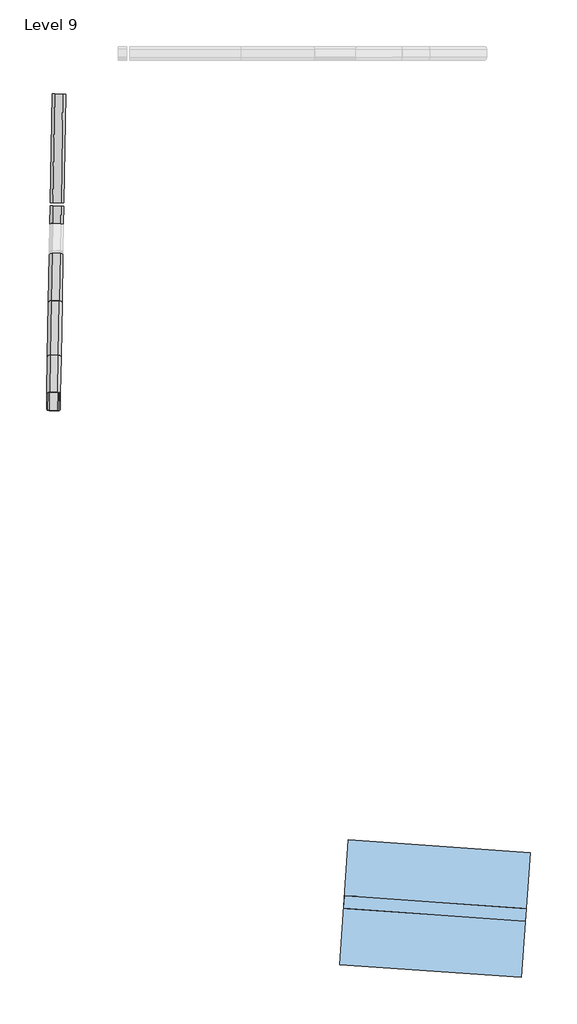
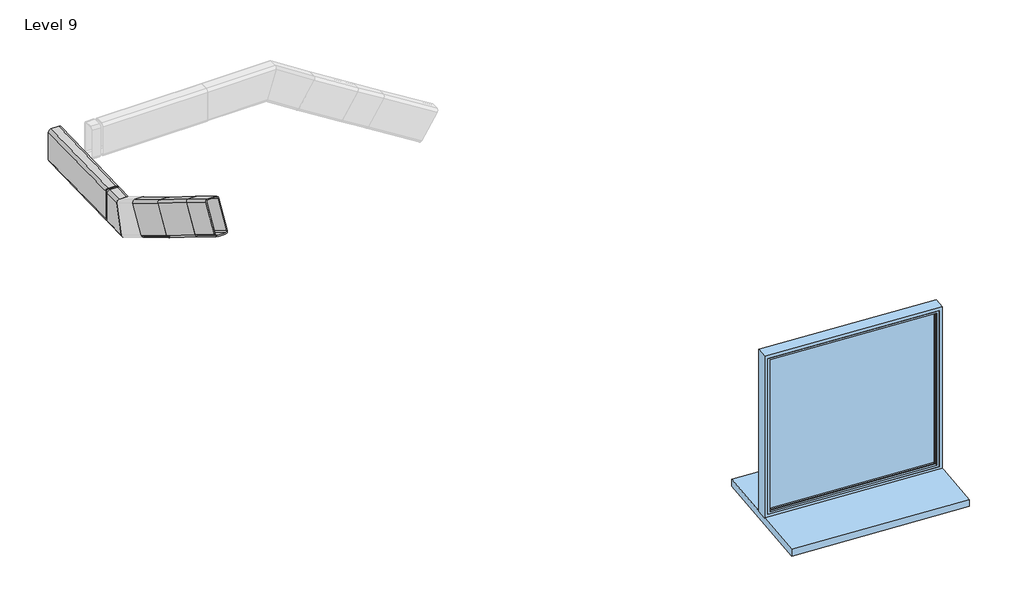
# One storey, part 1 of 2: 5 beams, 1 window.
"""IFC4 building model written with IfcOpenShell, lengths in millimetres."""

from ifc_helpers import new_model, si_unit, frame, origin, place, context, project, spatial, polyline, circle_curve, ellipse_curve, transform, mapped, element, save
from ifc_brep_helpers import plane_surface, cylinder_surface, revolved_surface, advanced_brep
from components import rectangular_and_square_hollow_sections_9ac2fbd2, finestra_semplice_80_x_80_cm_494b2022

model = new_model("IFC4")

# Units and contexts
model_context = context("Model", 3, world=origin())
ifc_project = project(units=[si_unit("LENGTHUNIT", "METRE", prefix="MILLI")], contexts=[model_context])

# Site, building, storey
site = spatial("IfcSite", under=ifc_project)
building = spatial("IfcBuilding", under=site)
storey = spatial("IfcBuildingStorey", under=building, Name="Level 9", Elevation=-895.9880884)

# Beams
placement = place(None, origin())
element("IfcBeam", 1, ObjectType="Rectangular and Square Hollow Sections : TREC160x60x6", at=placement, inside=storey, context=model_context, shape_type="AdvancedBrep", body=[
    advanced_brep(
    [(-786.6676706, 1507.5414416, -638.857877), (-774.6694983, 1507.3320127, -626.857877), (-738.6749813, 1506.7037259, -626.857877), (-726.6768089, 1506.494297, -638.857877), (-726.6768089, 1506.494297, -774.857877), (-738.6749813, 1506.7037259, -786.857877), (-774.6694983, 1507.3320127, -786.857877), (-786.6676706, 1507.5414416, -774.857877), (-738.6749813, 1506.7037259, -632.857877), (-774.6694983, 1507.3320127, -632.857877), (-780.6685845, 1507.4367271, -638.857877), (-780.6685845, 1507.4367271, -774.857877), (-774.6694983, 1507.3320127, -780.857877), (-738.6749813, 1506.7037259, -780.857877), (-732.6758951, 1506.5990114, -774.857877), (-732.6758951, 1506.5990114, -638.857877), (-788.071649, 1427.1075937, -638.857877), (-776.0147937, 1430.2601056, -626.857877), (-740.0202767, 1429.631819, -626.857877), (-728.0807873, 1426.0604493, -638.857877), (-728.7458602, 1387.958454, -774.857877), (-740.8027155, 1384.8059421, -786.857877), (-776.7972325, 1385.4342288, -786.857877), (-788.7367219, 1389.0055984, -774.857877), (-740.0496182, 1427.9508486, -632.857877), (-776.0441352, 1428.5791352, -632.857877), (-782.0725628, 1427.0028793, -638.857877), (-782.7376357, 1388.900884, -774.857877), (-776.767891, 1387.1151992, -780.857877), (-740.773374, 1386.4869125, -780.857877), (-734.7449464, 1388.0631685, -774.857877), (-734.0798734, 1426.1651638, -638.857877)],
    [
        (0, 1, circle_curve(frame((-774.6694983, 1507.3320127, -638.857877), z_axis=(0.01745241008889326, 0.9998476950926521, 0.0), x_axis=(0.9998476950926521, -0.01745241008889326, 0.0)), 12.0)),
        (1, 2),
        (2, 3, circle_curve(frame((-738.6749813, 1506.7037259, -638.857877), z_axis=(0.01745241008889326, 0.9998476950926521, 0.0), x_axis=(0.9998476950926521, -0.01745241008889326, 0.0)), 12.0)),
        (3, 4),
        (4, 5, circle_curve(frame((-738.6749813, 1506.7037259, -774.857877), z_axis=(0.01745241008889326, 0.9998476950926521, 0.0), x_axis=(0.9998476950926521, -0.01745241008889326, 0.0)), 12.0)),
        (5, 6),
        (6, 7, circle_curve(frame((-774.6694983, 1507.3320127, -774.857877), z_axis=(0.01745241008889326, 0.9998476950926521, 0.0), x_axis=(0.9998476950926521, -0.01745241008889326, 0.0)), 12.0)),
        (7, 0),
        (8, 9),
        (9, 10, circle_curve(frame((-774.6694983, 1507.3320127, -638.857877), z_axis=(-0.01745241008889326, -0.9998476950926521, 0.0), x_axis=(0.9998476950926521, -0.01745241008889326, 0.0)), 6.0)),
        (10, 11),
        (11, 12, circle_curve(frame((-774.6694983, 1507.3320127, -774.857877), z_axis=(-0.01745241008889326, -0.9998476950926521, 0.0), x_axis=(0.9998476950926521, -0.01745241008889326, 0.0)), 6.0)),
        (12, 13),
        (13, 14, circle_curve(frame((-738.6749813, 1506.7037259, -774.857877), z_axis=(-0.01745241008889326, -0.9998476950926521, 0.0), x_axis=(0.9998476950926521, -0.01745241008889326, 0.0)), 6.0)),
        (14, 15),
        (15, 8, circle_curve(frame((-738.6749813, 1506.7037259, -638.857877), z_axis=(-0.01745241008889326, -0.9998476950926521, 0.0), x_axis=(0.9998476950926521, -0.01745241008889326, 0.0)), 6.0)),
        (0, 16),
        (16, 17, ellipse_curve(frame((-776.0734766, 1426.8981649, -638.857877), z_axis=(0.016805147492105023, 0.9627662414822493, -0.26981243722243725), x_axis=(0.004708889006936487, 0.2697713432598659, 0.962912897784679)), 12.4621864, 12.0)),
        (17, 1),
        (17, 18),
        (18, 2),
        (18, 19, ellipse_curve(frame((-740.0789596, 1426.2698782, -638.857877), z_axis=(0.016805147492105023, 0.9627662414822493, -0.26981243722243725), x_axis=(0.004708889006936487, 0.2697713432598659, 0.962912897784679)), 12.4621864, 12.0)),
        (19, 3),
        (19, 20),
        (20, 4),
        (20, 21, ellipse_curve(frame((-740.7440325, 1388.1678829, -774.857877), z_axis=(0.016805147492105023, 0.9627662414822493, -0.26981243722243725), x_axis=(0.004708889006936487, 0.2697713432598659, 0.962912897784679)), 12.4621864, 12.0)),
        (21, 5),
        (21, 22),
        (22, 6),
        (22, 23, ellipse_curve(frame((-776.7385496, 1388.7961695, -774.857877), z_axis=(0.016805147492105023, 0.9627662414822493, -0.26981243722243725), x_axis=(0.004708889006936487, 0.2697713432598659, 0.962912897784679)), 12.4621864, 12.0)),
        (23, 7),
        (23, 16),
        (8, 24),
        (24, 25),
        (25, 9),
        (25, 26, ellipse_curve(frame((-776.0734766, 1426.8981649, -638.857877), z_axis=(-0.016805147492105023, -0.9627662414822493, 0.26981243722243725), x_axis=(-0.004708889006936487, -0.2697713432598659, -0.962912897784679)), 6.2310932, 6.0)),
        (26, 10),
        (26, 27),
        (27, 11),
        (27, 28, ellipse_curve(frame((-776.7385496, 1388.7961695, -774.857877), z_axis=(-0.016805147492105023, -0.9627662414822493, 0.26981243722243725), x_axis=(-0.004708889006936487, -0.2697713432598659, -0.962912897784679)), 6.2310932, 6.0)),
        (28, 12),
        (28, 29),
        (29, 13),
        (29, 30, ellipse_curve(frame((-740.7440325, 1388.1678829, -774.857877), z_axis=(-0.016805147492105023, -0.9627662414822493, 0.26981243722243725), x_axis=(-0.004708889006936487, -0.2697713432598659, -0.962912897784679)), 6.2310932, 6.0)),
        (30, 14),
        (30, 31),
        (31, 15),
        (31, 24, ellipse_curve(frame((-740.0789596, 1426.2698782, -638.857877), z_axis=(-0.016805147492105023, -0.9627662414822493, 0.26981243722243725), x_axis=(-0.004708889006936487, -0.2697713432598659, -0.962912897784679)), 6.2310932, 6.0)),
    ],
    [
        plane_surface(frame((-756.6722398, 1507.0178693, -706.857877), z_axis=(0.01745241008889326, 0.9998476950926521, 0.0), x_axis=(0.0, 0.0, 1.0))),
        cylinder_surface(frame((-774.6694983, 1507.3320127, -638.857877), z_axis=(0.01745241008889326, 0.9998476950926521, 0.0), x_axis=(0.9998476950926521, -0.01745241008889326, 0.0)), 12.0),
        plane_surface(frame((-774.6694983, 1507.3320127, -626.857877), z_axis=(0.0, 0.0, 1.0), x_axis=(-0.01745241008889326, -0.9998476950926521, 0.0))),
        cylinder_surface(frame((-738.6749813, 1506.7037259, -638.857877), z_axis=(0.01745241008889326, 0.9998476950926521, 0.0), x_axis=(0.9998476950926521, -0.01745241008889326, 0.0)), 12.0),
        plane_surface(frame((-726.6768089, 1506.494297, -638.857877), z_axis=(0.9998476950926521, -0.01745241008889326, 0.0), x_axis=(-0.01745241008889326, -0.9998476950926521, 0.0))),
        cylinder_surface(frame((-738.6749813, 1506.7037259, -774.857877), z_axis=(0.01745241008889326, 0.9998476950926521, 0.0), x_axis=(0.9998476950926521, -0.01745241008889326, 0.0)), 12.0),
        plane_surface(frame((-738.6749813, 1506.7037259, -786.857877), z_axis=(0.0, 0.0, -1.0), x_axis=(-0.01745241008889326, -0.9998476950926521, 0.0))),
        cylinder_surface(frame((-774.6694983, 1507.3320127, -774.857877), z_axis=(0.01745241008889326, 0.9998476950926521, 0.0), x_axis=(0.9998476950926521, -0.01745241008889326, 0.0)), 12.0),
        plane_surface(frame((-786.6676706, 1507.5414416, -774.857877), z_axis=(-0.9998476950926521, 0.01745241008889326, 0.0), x_axis=(-0.01745241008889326, -0.9998476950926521, 0.0))),
        plane_surface(frame((-738.6749813, 1506.7037259, -632.857877), z_axis=(0.0, 0.0, -1.0), x_axis=(-0.01745241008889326, -0.9998476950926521, 0.0))),
        revolved_surface(polyline([(-770.1037319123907, 1425.112480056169, -638.857877), (-768.6704121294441, 1507.2272982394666, -638.857877)]), (-774.6694983, 1507.3320127, -638.857877), (-0.01745241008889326, -0.9998476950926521, 0.0)),
        plane_surface(frame((-780.6685845, 1507.4367271, -638.857877), z_axis=(0.9998476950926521, -0.01745241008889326, 0.0), x_axis=(-0.01745241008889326, -0.9998476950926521, 0.0))),
        revolved_surface(polyline([(-770.768804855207, 1387.0104846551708, -774.857877), (-768.6704121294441, 1507.2272982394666, -774.857877)]), (-774.6694983, 1507.3320127, -774.857877), (-0.01745241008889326, -0.9998476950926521, 0.0)),
        plane_surface(frame((-774.6694983, 1507.3320127, -780.857877), z_axis=(0.0, 0.0, 1.0), x_axis=(-0.01745241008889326, -0.9998476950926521, 0.0))),
        revolved_surface(polyline([(-734.7742878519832, 1386.38219803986, -774.857877), (-732.6758951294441, 1506.5990114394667, -774.857877)]), (-738.6749813, 1506.7037259, -774.857877), (-0.01745241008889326, -0.9998476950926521, 0.0)),
        plane_surface(frame((-732.6758951, 1506.5990114, -774.857877), z_axis=(-0.9998476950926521, 0.01745241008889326, 0.0), x_axis=(-0.01745241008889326, -0.9998476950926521, 0.0))),
        revolved_surface(polyline([(-734.1092149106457, 1424.4841933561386, -638.857877), (-732.6758951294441, 1506.5990114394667, -638.857877)]), (-738.6749813, 1506.7037259, -638.857877), (-0.01745241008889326, -0.9998476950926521, 0.0)),
        plane_surface(frame((-758.7999749, 1385.1200854, -786.8578774), z_axis=(-0.016805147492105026, -0.9627662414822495, 0.2698124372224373), x_axis=(0.9998587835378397, -0.016181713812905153, 0.004534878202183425))),
    ],
    [
        (0, [[1, 2, 3, 4, 5, 6, 7, 8], [9, 10, 11, 12, 13, 14, 15, 16]]),
        (1, [[-1, 17, 18, 19]]),
        (2, [[-2, -19, 20, 21]]),
        (3, [[-3, -21, 22, 23]]),
        (4, [[-4, -23, 24, 25]]),
        (5, [[-5, -25, 26, 27]]),
        (6, [[-6, -27, 28, 29]]),
        (7, [[-7, -29, 30, 31]]),
        (8, [[-8, -31, 32, -17]]),
        (9, [[-9, 33, 34, 35]]),
        (10, [[-10, -35, 36, 37]]),
        (11, [[-11, -37, 38, 39]]),
        (12, [[-12, -39, 40, 41]]),
        (13, [[-13, -41, 42, 43]]),
        (14, [[-14, -43, 44, 45]]),
        (15, [[-15, -45, 46, 47]]),
        (16, [[-16, -47, 48, -33]]),
        (17, [[-32, -30, -28, -26, -24, -22, -20, -18], [-48, -46, -44, -42, -40, -38, -36, -34]]),
    ],
),
])
element("IfcBeam", 2, ObjectType="Rectangular and Square Hollow Sections : TREC160x60x6", at=placement, inside=storey, context=model_context, shape_type="AdvancedBrep", body=[
    advanced_brep(
    [(-786.1135043, 851.705311, -268.614134), (-798.2224054, 845.5710937, -278.8000931), (-801.0410842, 684.0891106, -179.850867), (-788.9348089, 690.0728935, -169.5727281), (-750.1189873, 851.0770243, -268.614134), (-752.9402919, 689.4446068, -169.5727281), (-738.2315437, 844.5239492, -278.8000931), (-741.0502225, 683.0419662, -179.850867), (-739.4864698, 772.6292921, -394.2409629), (-742.275389, 612.8522331, -296.336441), (-751.5953709, 766.4950748, -404.426922), (-754.3816642, 606.8684503, -306.6145799), (-787.5898879, 767.1233614, -404.426922), (-790.3761813, 607.496737, -306.6145799), (-799.4773315, 773.6764366, -394.2409629), (-802.2662507, 613.8993776, -296.336441), (-786.1688687, 848.5334879, -273.7071136), (-750.1743517, 847.9052012, -273.7071136), (-752.9943434, 686.3480009, -174.7117975), (-788.9888604, 686.9762876, -174.7117975), (-792.2233193, 845.4663792, -278.8000931), (-795.041998, 683.9843962, -179.850867), (-793.4782453, 773.5717221, -394.2409629), (-796.2671645, 613.7946631, -296.336441), (-787.5345235, 770.2951846, -399.3339424), (-790.3221298, 610.5933428, -301.4755105), (-751.5400065, 769.6668979, -399.3339424), (-754.3276128, 609.9650561, -301.4755105), (-745.4855559, 772.7340065, -394.2409629), (-748.2744751, 612.9569476, -296.336441), (-744.2306299, 844.6286637, -278.8000931), (-747.0493087, 683.1466806, -179.850867)],
    [
        (0, 1, ellipse_curve(frame((-786.2242331, 845.3616648, -278.8000931), z_axis=(-0.014813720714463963, -0.8486774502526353, 0.5287032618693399), x_axis=(0.009227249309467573, 0.5286227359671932, 0.8488067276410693)), 12.0003279, 12.0)),
        (1, 2),
        (2, 3, ellipse_curve(frame((-789.0429119, 683.8796817, -179.850867), z_axis=(0.014947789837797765, 0.856358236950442, -0.5161658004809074), x_axis=(-0.009008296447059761, -0.5160871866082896, -0.856488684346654)), 12.0003207, 12.0)),
        (3, 0),
        (4, 0),
        (3, 5),
        (5, 4),
        (6, 4, ellipse_curve(frame((-750.2297161, 844.7333781, -278.8000931), z_axis=(-0.014813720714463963, -0.8486774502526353, 0.5287032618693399), x_axis=(0.009227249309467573, 0.5286227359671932, 0.8488067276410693)), 12.0003279, 12.0)),
        (5, 7, ellipse_curve(frame((-753.0483948, 683.2513951, -179.850867), z_axis=(0.014947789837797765, 0.856358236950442, -0.5161658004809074), x_axis=(-0.009008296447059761, -0.5160871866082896, -0.856488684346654)), 12.0003207, 12.0)),
        (7, 6),
        (8, 6),
        (7, 9),
        (9, 8),
        (10, 8, ellipse_curve(frame((-751.4846421, 772.838721, -394.2409629), z_axis=(-0.014813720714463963, -0.8486774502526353, 0.5287032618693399), x_axis=(0.009227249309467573, 0.5286227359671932, 0.8488067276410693)), 12.0003279, 12.0)),
        (9, 11, ellipse_curve(frame((-754.2735613, 613.061662, -296.336441), z_axis=(0.014947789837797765, 0.856358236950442, -0.5161658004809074), x_axis=(-0.009008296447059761, -0.5160871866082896, -0.856488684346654)), 12.0003207, 12.0)),
        (11, 10),
        (12, 10),
        (11, 13),
        (13, 12),
        (14, 12, ellipse_curve(frame((-787.4791591, 773.4670077, -394.2409629), z_axis=(-0.014813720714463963, -0.8486774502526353, 0.5287032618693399), x_axis=(0.009227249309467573, 0.5286227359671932, 0.8488067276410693)), 12.0003279, 12.0)),
        (13, 15, ellipse_curve(frame((-790.2680783, 613.6899487, -296.336441), z_axis=(0.014947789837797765, 0.856358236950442, -0.5161658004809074), x_axis=(-0.009008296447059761, -0.5160871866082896, -0.856488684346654)), 12.0003207, 12.0)),
        (15, 14),
        (1, 14),
        (15, 2),
        (16, 17),
        (17, 18),
        (18, 19),
        (19, 16),
        (20, 16, ellipse_curve(frame((-786.2242331, 845.3616648, -278.8000931), z_axis=(0.014813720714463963, 0.8486774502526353, -0.5287032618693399), x_axis=(-0.009227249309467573, -0.5286227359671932, -0.8488067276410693)), 6.000164, 6.0)),
        (19, 21, ellipse_curve(frame((-789.0429119, 683.8796817, -179.850867), z_axis=(-0.014947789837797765, -0.856358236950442, 0.5161658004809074), x_axis=(0.009008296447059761, 0.5160871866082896, 0.856488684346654)), 6.0001603, 6.0)),
        (21, 20),
        (22, 20),
        (21, 23),
        (23, 22),
        (24, 22, ellipse_curve(frame((-787.4791591, 773.4670077, -394.2409629), z_axis=(0.014813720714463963, 0.8486774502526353, -0.5287032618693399), x_axis=(-0.009227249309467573, -0.5286227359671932, -0.8488067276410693)), 6.000164, 6.0)),
        (23, 25, ellipse_curve(frame((-790.2680783, 613.6899487, -296.336441), z_axis=(-0.014947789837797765, -0.856358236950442, 0.5161658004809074), x_axis=(0.009008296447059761, 0.5160871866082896, 0.856488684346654)), 6.0001603, 6.0)),
        (25, 24),
        (26, 24),
        (25, 27),
        (27, 26),
        (28, 26, ellipse_curve(frame((-751.4846421, 772.838721, -394.2409629), z_axis=(0.014813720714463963, 0.8486774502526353, -0.5287032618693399), x_axis=(-0.009227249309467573, -0.5286227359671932, -0.8488067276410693)), 6.000164, 6.0)),
        (27, 29, ellipse_curve(frame((-754.2735613, 613.061662, -296.336441), z_axis=(-0.014947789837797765, -0.856358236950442, 0.5161658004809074), x_axis=(0.009008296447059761, 0.5160871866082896, 0.856488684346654)), 6.0001603, 6.0)),
        (29, 28),
        (30, 28),
        (29, 31),
        (31, 30),
        (17, 30, ellipse_curve(frame((-750.2297161, 844.7333781, -278.8000931), z_axis=(0.014813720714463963, 0.8486774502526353, -0.5287032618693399), x_axis=(-0.009227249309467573, -0.5286227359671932, -0.8488067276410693)), 6.000164, 6.0)),
        (31, 18, ellipse_curve(frame((-753.0483948, 683.2513951, -179.850867), z_axis=(-0.014947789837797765, -0.856358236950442, 0.5161658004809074), x_axis=(0.009008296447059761, 0.5160871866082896, 0.856488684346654)), 6.0001603, 6.0)),
    ],
    [
        cylinder_surface(frame((-786.23475, 844.7591515, -278.4308989), z_axis=(0.014881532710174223, 0.8525623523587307, -0.5224136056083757), x_axis=(0.9998476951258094, -0.017452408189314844, 0.0)), 12.0),
        plane_surface(frame((-786.1253415, 851.02716, -268.1985922), z_axis=(0.009117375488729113, 0.5223340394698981, 0.8526922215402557), x_axis=(-0.014881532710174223, -0.8525623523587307, 0.5224136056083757))),
        cylinder_surface(frame((-750.240233, 844.1308648, -278.4308989), z_axis=(0.014881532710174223, 0.8525623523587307, -0.5224136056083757), x_axis=(0.9998476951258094, -0.017452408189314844, 0.0)), 12.0),
        plane_surface(frame((-738.2420606, 843.9214359, -278.4308989), z_axis=(0.9998476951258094, -0.017452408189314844, 0.0), x_axis=(-0.014881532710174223, -0.8525623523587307, 0.5224136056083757))),
        cylinder_surface(frame((-751.480196, 773.0934355, -394.397041), z_axis=(0.014881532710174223, 0.8525623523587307, -0.5224136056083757), x_axis=(0.9998476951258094, -0.017452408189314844, 0.0)), 12.0),
        plane_surface(frame((-751.5896045, 766.825427, -404.6293477), z_axis=(-0.009117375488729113, -0.5223340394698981, -0.8526922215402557), x_axis=(-0.014881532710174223, -0.8525623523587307, 0.5224136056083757))),
        cylinder_surface(frame((-787.4747131, 773.7217222, -394.397041), z_axis=(0.014881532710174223, 0.8525623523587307, -0.5224136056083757), x_axis=(0.9998476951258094, -0.017452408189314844, 0.0)), 12.0),
        plane_surface(frame((-799.4728854, 773.9311511, -394.397041), z_axis=(-0.9998476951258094, 0.017452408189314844, 0.0), x_axis=(-0.014881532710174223, -0.8525623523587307, 0.5224136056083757))),
        plane_surface(frame((-750.1855287, 847.2648691, -273.3147455), z_axis=(-0.009117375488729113, -0.5223340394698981, -0.8526922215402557), x_axis=(-0.014881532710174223, -0.8525623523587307, 0.5224136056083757))),
        revolved_surface(polyline([(-783.0444784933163, 683.7375688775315, -179.82795088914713), (-780.2244867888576, 845.2947692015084, -278.8232669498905)]), (-786.23475, 844.7591515, -278.4308989), (-0.014881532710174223, -0.8525623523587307, 0.5224136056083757)),
        plane_surface(frame((-792.2338362, 844.863866, -278.4308989), z_axis=(0.9998476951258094, -0.017452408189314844, 0.0), x_axis=(-0.014881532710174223, -0.8525623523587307, 0.5224136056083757))),
        revolved_surface(polyline([(-784.2696449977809, 613.5478358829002, -296.3135248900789), (-781.4794128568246, 773.4001121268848, -394.2641366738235)]), (-787.4747131, 773.7217222, -394.397041), (-0.014881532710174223, -0.8525623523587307, 0.5224136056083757)),
        plane_surface(frame((-787.5294173, 770.5877179, -399.5131943), z_axis=(0.009117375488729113, 0.5223340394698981, 0.8526922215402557), x_axis=(-0.014881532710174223, -0.8525623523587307, 0.5224136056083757))),
        revolved_surface(polyline([(-748.275127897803, 612.9195491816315, -296.31352488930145), (-745.4848957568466, 772.771825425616, -394.26413667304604)]), (-751.480196, 773.0934355, -394.397041), (-0.014881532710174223, -0.8525623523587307, 0.5224136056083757)),
        plane_surface(frame((-745.4811099, 772.988721, -394.397041), z_axis=(-0.9998476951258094, 0.017452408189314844, 0.0), x_axis=(-0.014881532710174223, -0.8525623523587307, 0.5224136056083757))),
        revolved_surface(polyline([(-747.0499614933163, 683.1092821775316, -179.82795088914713), (-744.2299697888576, 844.6664825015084, -278.8232669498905)]), (-750.240233, 844.1308648, -278.4308989), (-0.014881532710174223, -0.8525623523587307, 0.5224136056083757)),
        plane_surface(frame((-772.3789196, 607.1825929, -306.6145809), z_axis=(-0.014947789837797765, -0.856358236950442, 0.5161658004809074), x_axis=(0.999888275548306, -0.012802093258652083, 0.007716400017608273))),
        plane_surface(frame((-769.5926377, 766.8092166, -404.4269246), z_axis=(0.014813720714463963, 0.8486774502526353, -0.5287032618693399), x_axis=(0.9998902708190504, -0.012573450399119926, 0.007832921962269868))),
    ],
    [
        (0, [[1, 2, 3, 4]]),
        (1, [[5, -4, 6, 7]]),
        (2, [[8, -7, 9, 10]]),
        (3, [[11, -10, 12, 13]]),
        (4, [[14, -13, 15, 16]]),
        (5, [[17, -16, 18, 19]]),
        (6, [[20, -19, 21, 22]]),
        (7, [[23, -22, 24, -2]]),
        (8, [[25, 26, 27, 28]]),
        (9, [[29, -28, 30, 31]]),
        (10, [[32, -31, 33, 34]]),
        (11, [[35, -34, 36, 37]]),
        (12, [[38, -37, 39, 40]]),
        (13, [[41, -40, 42, 43]]),
        (14, [[44, -43, 45, 46]]),
        (15, [[47, -46, 48, -26]]),
        (16, [[-24, -21, -18, -15, -12, -9, -6, -3], [-48, -45, -42, -39, -36, -33, -30, -27]]),
        (17, [[-1, -5, -8, -11, -14, -17, -20, -23], [-25, -29, -32, -35, -38, -41, -44, -47]]),
    ],
),
])
element("IfcBeam", 3, ObjectType="Rectangular and Square Hollow Sections : TREC160x60x6", at=placement, inside=storey, context=model_context, shape_type="AdvancedBrep", body=[
    advanced_brep(
    [(-781.949362, 1090.2688692, -419.6925435), (-794.0580797, 1084.1451584, -429.8851562), (-798.2224055, 845.5710936, -278.8000931), (-786.1135044, 851.705311, -268.614134), (-745.954845, 1089.6405826, -419.6925435), (-750.1189874, 851.0770243, -268.614134), (-734.067218, 1083.0980141, -429.8851562), (-738.2315438, 844.5239492, -278.8000931), (-735.3200655, 1011.3224313, -545.4014338), (-739.4864697, 772.6292921, -394.2409629), (-747.4287832, 1005.1987205, -555.5940465), (-751.5953708, 766.4950748, -404.426922), (-783.4233002, 1005.8270071, -555.5940465), (-787.5898878, 767.1233615, -404.426922), (-795.3109272, 1012.3695757, -545.4014338), (-799.4773314, 773.6764365, -394.2409629), (-782.0046347, 1087.1022994, -424.7888499), (-746.0101177, 1086.4740128, -424.7888499), (-750.1743517, 847.9052012, -273.7071136), (-786.1688688, 848.5334879, -273.7071136), (-788.0589935, 1084.040444, -429.8851562), (-792.2233193, 845.4663792, -278.8000931), (-789.311841, 1012.2648612, -545.4014338), (-793.4782452, 773.5717221, -394.2409629), (-783.3680275, 1008.993577, -550.4977401), (-787.5345234, 770.2951846, -399.3339424), (-747.3735105, 1008.3652904, -550.4977401), (-751.5400064, 769.6668979, -399.3339424), (-741.3191516, 1011.4271458, -545.4014338), (-745.4855559, 772.7340066, -394.2409629), (-740.0663042, 1083.2027285, -429.8851562), (-744.23063, 844.6286637, -278.8000931)],
    [
        (0, 1, ellipse_curve(frame((-782.0599074, 1083.9357296, -429.8851562), z_axis=(-0.014823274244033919, -0.8492248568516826, 0.527823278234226), x_axis=(-0.009211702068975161, -0.5277428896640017, -0.8493542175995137)), 12.0004263, 12.0)),
        (1, 2),
        (2, 3, ellipse_curve(frame((-786.2242332, 845.3616647, -278.8000931), z_axis=(0.014813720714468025, 0.8486774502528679, -0.5287032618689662), x_axis=(-0.00922724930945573, -0.5286227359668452, -0.8488067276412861)), 12.0003279, 12.0)),
        (3, 0),
        (4, 0),
        (3, 5),
        (5, 4),
        (6, 4, ellipse_curve(frame((-746.0653904, 1083.307443, -429.8851562), z_axis=(-0.014823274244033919, -0.8492248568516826, 0.527823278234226), x_axis=(-0.009211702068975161, -0.5277428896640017, -0.8493542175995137)), 12.0004263, 12.0)),
        (5, 7, ellipse_curve(frame((-750.2297161, 844.7333781, -278.8000931), z_axis=(0.014813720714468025, 0.8486774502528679, -0.5287032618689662), x_axis=(-0.00922724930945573, -0.5286227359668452, -0.8488067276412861)), 12.0003279, 12.0)),
        (7, 6),
        (8, 6),
        (7, 9),
        (9, 8),
        (10, 8, ellipse_curve(frame((-747.3182378, 1011.5318602, -545.4014338), z_axis=(-0.014823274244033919, -0.8492248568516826, 0.527823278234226), x_axis=(-0.009211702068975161, -0.5277428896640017, -0.8493542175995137)), 12.0004263, 12.0)),
        (9, 11, ellipse_curve(frame((-751.484642, 772.838721, -394.2409629), z_axis=(0.014813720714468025, 0.8486774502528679, -0.5287032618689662), x_axis=(-0.00922724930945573, -0.5286227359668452, -0.8488067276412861)), 12.0003279, 12.0)),
        (11, 10),
        (12, 10),
        (11, 13),
        (13, 12),
        (14, 12, ellipse_curve(frame((-783.3127548, 1012.1601468, -545.4014338), z_axis=(-0.014823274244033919, -0.8492248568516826, 0.527823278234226), x_axis=(-0.009211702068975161, -0.5277428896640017, -0.8493542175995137)), 12.0004263, 12.0)),
        (13, 15, ellipse_curve(frame((-787.4791591, 773.4670077, -394.2409629), z_axis=(0.014813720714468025, 0.8486774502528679, -0.5287032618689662), x_axis=(-0.00922724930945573, -0.5286227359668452, -0.8488067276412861)), 12.0003279, 12.0)),
        (15, 14),
        (1, 14),
        (15, 2),
        (16, 17),
        (17, 18),
        (18, 19),
        (19, 16),
        (20, 16, ellipse_curve(frame((-782.0599074, 1083.9357296, -429.8851562), z_axis=(0.014823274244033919, 0.8492248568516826, -0.527823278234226), x_axis=(0.009211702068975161, 0.5277428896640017, 0.8493542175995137)), 6.0002132, 6.0)),
        (19, 21, ellipse_curve(frame((-786.2242332, 845.3616647, -278.8000931), z_axis=(-0.014813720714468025, -0.8486774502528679, 0.5287032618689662), x_axis=(0.00922724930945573, 0.5286227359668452, 0.8488067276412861)), 6.000164, 6.0)),
        (21, 20),
        (22, 20),
        (21, 23),
        (23, 22),
        (24, 22, ellipse_curve(frame((-783.3127548, 1012.1601468, -545.4014338), z_axis=(0.014823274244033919, 0.8492248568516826, -0.527823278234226), x_axis=(0.009211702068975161, 0.5277428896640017, 0.8493542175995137)), 6.0002132, 6.0)),
        (23, 25, ellipse_curve(frame((-787.4791591, 773.4670077, -394.2409629), z_axis=(-0.014813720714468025, -0.8486774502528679, 0.5287032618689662), x_axis=(0.00922724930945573, 0.5286227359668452, 0.8488067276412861)), 6.000164, 6.0)),
        (25, 24),
        (26, 24),
        (25, 27),
        (27, 26),
        (28, 26, ellipse_curve(frame((-747.3182378, 1011.5318602, -545.4014338), z_axis=(0.014823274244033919, 0.8492248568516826, -0.527823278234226), x_axis=(0.009211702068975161, 0.5277428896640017, 0.8493542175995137)), 6.0002132, 6.0)),
        (27, 29, ellipse_curve(frame((-751.484642, 772.838721, -394.2409629), z_axis=(-0.014813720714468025, -0.8486774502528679, 0.5287032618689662), x_axis=(0.00922724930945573, 0.5286227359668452, 0.8488067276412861)), 6.000164, 6.0)),
        (29, 28),
        (30, 28),
        (29, 31),
        (31, 30),
        (17, 30, ellipse_curve(frame((-746.0653904, 1083.307443, -429.8851562), z_axis=(0.014823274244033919, 0.8492248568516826, -0.527823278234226), x_axis=(0.009211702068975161, 0.5277428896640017, 0.8493542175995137)), 6.0002132, 6.0)),
        (31, 18, ellipse_curve(frame((-750.2297161, 844.7333781, -278.8000931), z_axis=(-0.014813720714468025, -0.8486774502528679, 0.5287032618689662), x_axis=(0.00922724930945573, 0.5286227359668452, 0.8488067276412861)), 6.000164, 6.0)),
    ],
    [
        cylinder_surface(frame((-782.0550788, 1084.2123599, -430.0603417), z_axis=(0.014745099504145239, 0.8447461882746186, -0.5349639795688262), x_axis=(0.9998476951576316, -0.017452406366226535, 0.0)), 12.0),
        plane_surface(frame((-781.9430419, 1090.6309499, -419.9218433), z_axis=(0.009336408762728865, 0.5348825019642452, 0.8448748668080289), x_axis=(-0.014745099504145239, -0.8447461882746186, 0.5349639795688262))),
        cylinder_surface(frame((-746.0605618, 1083.5840732, -430.0603417), z_axis=(0.014745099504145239, 0.8447461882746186, -0.5349639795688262), x_axis=(0.9998476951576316, -0.017452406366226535, 0.0)), 12.0),
        plane_surface(frame((-734.0623894, 1083.3746444, -430.0603417), z_axis=(0.9998476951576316, -0.017452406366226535, 0.0), x_axis=(-0.014745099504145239, -0.8447461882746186, 0.5349639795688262))),
        cylinder_surface(frame((-747.3303133, 1010.840053, -544.9633236), z_axis=(0.014745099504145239, 0.8447461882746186, -0.5349639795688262), x_axis=(0.9998476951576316, -0.017452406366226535, 0.0)), 12.0),
        plane_surface(frame((-747.4423502, 1004.421463, -555.101822), z_axis=(-0.009336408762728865, -0.5348825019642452, -0.8448748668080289), x_axis=(-0.014745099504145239, -0.8447461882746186, 0.5349639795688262))),
        cylinder_surface(frame((-783.3248304, 1011.4683396, -544.9633236), z_axis=(0.014745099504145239, 0.8447461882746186, -0.5349639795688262), x_axis=(0.9998476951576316, -0.017452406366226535, 0.0)), 12.0),
        plane_surface(frame((-795.3230027, 1011.6777685, -544.9633236), z_axis=(-0.9998476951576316, 0.017452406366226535, 0.0), x_axis=(-0.014745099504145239, -0.8447461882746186, 0.5349639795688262))),
        plane_surface(frame((-746.0045433, 1086.7933683, -424.9910925), z_axis=(-0.009336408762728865, -0.5348825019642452, -0.8448748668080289), x_axis=(-0.014745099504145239, -0.8447461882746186, 0.5349639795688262))),
        revolved_surface(polyline([(-780.2258010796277, 845.2194783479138, -278.7763627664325), (-776.0600754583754, 1083.8737403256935, -429.91221339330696)]), (-782.0550788, 1084.2123599, -430.0603417), (-0.014745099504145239, -0.8447461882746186, 0.5349639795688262)),
        plane_surface(frame((-788.0541649, 1084.3170743, -430.0603417), z_axis=(0.9998476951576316, -0.017452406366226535, 0.0), x_axis=(-0.014745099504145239, -0.8447461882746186, 0.5349639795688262))),
        revolved_surface(polyline([(-781.4807269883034, 773.3248213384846, -394.21723258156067), (-777.3129229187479, 1012.0981575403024, -545.4284909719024)]), (-783.3248304, 1011.4683396, -544.9633236), (-0.014745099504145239, -0.8447461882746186, 0.5349639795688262)),
        plane_surface(frame((-783.3808488, 1008.2590446, -550.0325728), z_axis=(0.009336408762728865, 0.5348825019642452, 0.8448748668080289), x_axis=(-0.014745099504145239, -0.8447461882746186, 0.5349639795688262))),
        revolved_surface(polyline([(-745.486209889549, 772.6965346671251, -394.21723253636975), (-741.3184058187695, 1011.4698709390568, -545.4284909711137)]), (-747.3303133, 1010.840053, -544.9633236), (-0.014745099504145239, -0.8447461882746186, 0.5349639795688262)),
        plane_surface(frame((-741.3312272, 1010.7353385, -544.9633236), z_axis=(-0.9998476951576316, 0.017452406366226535, 0.0), x_axis=(-0.014745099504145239, -0.8447461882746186, 0.5349639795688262))),
        revolved_surface(polyline([(-744.2312840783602, 844.591191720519, -278.77636281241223), (-740.0655584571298, 1083.245453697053, -429.91221343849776)]), (-746.0605618, 1083.5840732, -430.0603417), (-0.014745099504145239, -0.8447461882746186, 0.5349639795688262)),
        plane_surface(frame((-768.1162374, 851.3911692, -268.6141314), z_axis=(-0.014813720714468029, -0.8486774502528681, 0.5287032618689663), x_axis=(0.9998902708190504, -0.012573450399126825, 0.00783292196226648))),
        plane_surface(frame((-765.426035, 1005.5128624, -555.5940486), z_axis=(0.014823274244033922, 0.8492248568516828, -0.5278232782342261), x_axis=(0.9998901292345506, -0.012589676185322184, 0.007824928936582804))),
    ],
    [
        (0, [[1, 2, 3, 4]]),
        (1, [[5, -4, 6, 7]]),
        (2, [[8, -7, 9, 10]]),
        (3, [[11, -10, 12, 13]]),
        (4, [[14, -13, 15, 16]]),
        (5, [[17, -16, 18, 19]]),
        (6, [[20, -19, 21, 22]]),
        (7, [[23, -22, 24, -2]]),
        (8, [[25, 26, 27, 28]]),
        (9, [[29, -28, 30, 31]]),
        (10, [[32, -31, 33, 34]]),
        (11, [[35, -34, 36, 37]]),
        (12, [[38, -37, 39, 40]]),
        (13, [[41, -40, 42, 43]]),
        (14, [[44, -43, 45, 46]]),
        (15, [[47, -46, 48, -26]]),
        (16, [[-24, -21, -18, -15, -12, -9, -6, -3], [-48, -45, -42, -39, -36, -33, -30, -27]]),
        (17, [[-1, -5, -8, -11, -14, -17, -20, -23], [-25, -29, -32, -35, -38, -41, -44, -47]]),
    ],
),
])
element("IfcBeam", 4, ObjectType="Rectangular and Square Hollow Sections : TREC160x60x6", at=placement, inside=storey, context=model_context, shape_type="AdvancedBrep", body=[
    advanced_brep(
    [(-790.4100595, 1293.1401233, -557.3531559), (-778.302849, 1299.1774833, -547.107877), (-742.308332, 1298.5491968, -547.107877), (-730.4191977, 1292.092979, -557.3531559), (-731.6549628, 1221.296038, -673.4663163), (-743.7621733, 1215.2586779, -683.7115952), (-779.7566903, 1215.8869645, -683.7115952), (-791.6458245, 1222.3431823, -673.4663163), (-742.362851, 1295.4258023, -552.2305164), (-778.3573681, 1296.0540889, -552.2305164), (-784.4109733, 1293.0354089, -557.3531559), (-785.6467384, 1222.2384678, -673.4663163), (-779.7021712, 1219.010359, -678.5889557), (-743.7076542, 1218.3820724, -678.5889557), (-737.654049, 1221.4007524, -673.4663163), (-736.4182839, 1292.1976934, -557.3531559), (-794.0580798, 1084.1451584, -429.8851562), (-781.9493621, 1090.2688692, -419.6925435), (-745.9548451, 1089.6405826, -419.6925435), (-734.0672181, 1083.0980141, -429.8851562), (-735.3200654, 1011.3224313, -545.4014338), (-747.4287831, 1005.1987205, -555.5940465), (-783.4233001, 1005.8270071, -555.5940465), (-795.3109271, 1012.3695756, -545.4014338), (-746.0101177, 1086.4740128, -424.7888498), (-782.0046348, 1087.1022994, -424.7888498), (-788.0589936, 1084.040444, -429.8851562), (-789.3118409, 1012.2648612, -545.4014338), (-783.3680274, 1008.9935769, -550.4977402), (-747.3735104, 1008.3652904, -550.4977402), (-741.3191516, 1011.4271458, -545.4014338), (-740.0663042, 1083.2027286, -429.8851562)],
    [
        (0, 1, circle_curve(frame((-778.4118871, 1292.9306944, -557.3531559), z_axis=(0.014900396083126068, 0.8536432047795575, -0.5206450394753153), x_axis=(0.9998476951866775, -0.017452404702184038, 0.0)), 12.0)),
        (1, 2),
        (2, 3, circle_curve(frame((-742.4173701, 1292.3024079, -557.3531559), z_axis=(0.014900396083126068, 0.8536432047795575, -0.5206450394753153), x_axis=(0.9998476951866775, -0.017452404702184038, 0.0)), 12.0)),
        (3, 4),
        (4, 5, circle_curve(frame((-743.6531352, 1221.5054668, -673.4663163), z_axis=(0.014900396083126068, 0.8536432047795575, -0.5206450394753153), x_axis=(0.9998476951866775, -0.017452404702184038, 0.0)), 12.0)),
        (5, 6),
        (6, 7, circle_curve(frame((-779.6476522, 1222.1337534, -673.4663163), z_axis=(0.014900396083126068, 0.8536432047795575, -0.5206450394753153), x_axis=(0.9998476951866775, -0.017452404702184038, 0.0)), 12.0)),
        (7, 0),
        (8, 9),
        (9, 10, circle_curve(frame((-778.4118871, 1292.9306944, -557.3531559), z_axis=(-0.014900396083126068, -0.8536432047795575, 0.5206450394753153), x_axis=(0.9998476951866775, -0.017452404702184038, 0.0)), 6.0)),
        (10, 11),
        (11, 12, circle_curve(frame((-779.6476522, 1222.1337534, -673.4663163), z_axis=(-0.014900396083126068, -0.8536432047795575, 0.5206450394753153), x_axis=(0.9998476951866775, -0.017452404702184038, 0.0)), 6.0)),
        (12, 13),
        (13, 14, circle_curve(frame((-743.6531352, 1221.5054668, -673.4663163), z_axis=(-0.014900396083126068, -0.8536432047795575, 0.5206450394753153), x_axis=(0.9998476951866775, -0.017452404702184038, 0.0)), 6.0)),
        (14, 15),
        (15, 8, circle_curve(frame((-742.4173701, 1292.3024079, -557.3531559), z_axis=(-0.014900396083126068, -0.8536432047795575, 0.5206450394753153), x_axis=(0.9998476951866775, -0.017452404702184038, 0.0)), 6.0)),
        (0, 16),
        (16, 17, ellipse_curve(frame((-782.0599074, 1083.9357296, -429.8851562), z_axis=(0.01482327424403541, 0.849224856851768, -0.5278232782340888), x_axis=(0.009211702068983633, 0.5277428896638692, 0.8493542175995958)), 12.0004263, 12.0)),
        (17, 1),
        (17, 18),
        (18, 2),
        (18, 19, ellipse_curve(frame((-746.0653904, 1083.307443, -429.8851562), z_axis=(0.01482327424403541, 0.849224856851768, -0.5278232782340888), x_axis=(0.009211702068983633, 0.5277428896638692, 0.8493542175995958)), 12.0004263, 12.0)),
        (19, 3),
        (19, 20),
        (20, 4),
        (20, 21, ellipse_curve(frame((-747.3182377, 1011.5318602, -545.4014338), z_axis=(0.01482327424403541, 0.849224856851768, -0.5278232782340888), x_axis=(0.009211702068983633, 0.5277428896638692, 0.8493542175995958)), 12.0004263, 12.0)),
        (21, 5),
        (21, 22),
        (22, 6),
        (22, 23, ellipse_curve(frame((-783.3127548, 1012.1601468, -545.4014338), z_axis=(0.01482327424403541, 0.849224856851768, -0.5278232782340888), x_axis=(0.009211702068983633, 0.5277428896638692, 0.8493542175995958)), 12.0004263, 12.0)),
        (23, 7),
        (23, 16),
        (8, 24),
        (24, 25),
        (25, 9),
        (25, 26, ellipse_curve(frame((-782.0599074, 1083.9357296, -429.8851562), z_axis=(-0.01482327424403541, -0.849224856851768, 0.5278232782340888), x_axis=(-0.009211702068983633, -0.5277428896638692, -0.8493542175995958)), 6.0002132, 6.0)),
        (26, 10),
        (26, 27),
        (27, 11),
        (27, 28, ellipse_curve(frame((-783.3127548, 1012.1601468, -545.4014338), z_axis=(-0.01482327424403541, -0.849224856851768, 0.5278232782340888), x_axis=(-0.009211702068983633, -0.5277428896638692, -0.8493542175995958)), 6.0002132, 6.0)),
        (28, 12),
        (28, 29),
        (29, 13),
        (29, 30, ellipse_curve(frame((-747.3182377, 1011.5318602, -545.4014338), z_axis=(-0.01482327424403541, -0.849224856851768, 0.5278232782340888), x_axis=(-0.009211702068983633, -0.5277428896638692, -0.8493542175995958)), 6.0002132, 6.0)),
        (30, 14),
        (30, 31),
        (31, 15),
        (31, 24, ellipse_curve(frame((-746.0653904, 1083.307443, -429.8851562), z_axis=(-0.01482327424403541, -0.849224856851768, 0.5278232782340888), x_axis=(-0.009211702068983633, -0.5277428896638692, -0.8493542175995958)), 6.0002132, 6.0)),
    ],
    [
        plane_surface(frame((-761.0325111, 1257.2180806, -615.4097361), z_axis=(0.014900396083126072, 0.8536432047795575, -0.5206450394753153), x_axis=(0.009086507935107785, 0.5205657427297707, 0.853773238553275))),
        cylinder_surface(frame((-778.4118871, 1292.9306944, -557.3531559), z_axis=(0.014900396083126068, 0.8536432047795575, -0.5206450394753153), x_axis=(0.9998476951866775, -0.017452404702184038, 0.0)), 12.0),
        plane_surface(frame((-778.302849, 1299.1774833, -547.107877), z_axis=(0.009086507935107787, 0.5205657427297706, 0.853773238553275), x_axis=(-0.014900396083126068, -0.8536432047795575, 0.5206450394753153))),
        cylinder_surface(frame((-742.4173701, 1292.3024079, -557.3531559), z_axis=(0.014900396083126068, 0.8536432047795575, -0.5206450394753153), x_axis=(0.9998476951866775, -0.017452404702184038, 0.0)), 12.0),
        plane_surface(frame((-730.4191977, 1292.092979, -557.3531559), z_axis=(0.9998476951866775, -0.017452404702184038, 0.0), x_axis=(-0.014900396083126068, -0.8536432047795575, 0.5206450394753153))),
        cylinder_surface(frame((-743.6531352, 1221.5054668, -673.4663163), z_axis=(0.014900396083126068, 0.8536432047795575, -0.5206450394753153), x_axis=(0.9998476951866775, -0.017452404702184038, 0.0)), 12.0),
        plane_surface(frame((-743.7621733, 1215.2586779, -683.7115952), z_axis=(-0.009086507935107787, -0.5205657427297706, -0.853773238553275), x_axis=(-0.014900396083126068, -0.8536432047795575, 0.5206450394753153))),
        cylinder_surface(frame((-779.6476522, 1222.1337534, -673.4663163), z_axis=(0.014900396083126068, 0.8536432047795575, -0.5206450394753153), x_axis=(0.9998476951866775, -0.017452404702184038, 0.0)), 12.0),
        plane_surface(frame((-791.6458245, 1222.3431823, -673.4663163), z_axis=(-0.9998476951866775, 0.017452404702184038, 0.0), x_axis=(-0.014900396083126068, -0.8536432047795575, 0.5206450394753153))),
        plane_surface(frame((-742.362851, 1295.4258023, -552.2305164), z_axis=(-0.009086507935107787, -0.5205657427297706, -0.853773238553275), x_axis=(-0.014900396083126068, -0.8536432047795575, 0.5206450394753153))),
        revolved_surface(polyline([(-776.0615748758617, 1083.7878397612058, -429.85882319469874), (-772.4128009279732, 1292.825980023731, -557.3531559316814)]), (-778.4118871, 1292.9306944, -557.3531559), (-0.014900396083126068, -0.8536432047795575, 0.5206450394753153)),
        plane_surface(frame((-784.4109733, 1293.0354089, -557.3531559), z_axis=(0.9998476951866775, -0.017452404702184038, 0.0), x_axis=(-0.014900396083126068, -0.8536432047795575, 0.5206450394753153))),
        revolved_surface(polyline([(-777.3144222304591, 1012.0122569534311, -545.3751007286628), (-773.6485660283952, 1222.0290389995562, -673.4663163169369)]), (-779.6476522, 1222.1337534, -673.4663163), (-0.014900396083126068, -0.8536432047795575, 0.5206450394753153)),
        plane_surface(frame((-779.7021712, 1219.010359, -678.5889557), z_axis=(0.009086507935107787, 0.5205657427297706, 0.853773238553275), x_axis=(-0.014900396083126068, -0.8536432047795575, 0.5206450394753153))),
        revolved_surface(polyline([(-741.3199052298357, 1011.3839703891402, -545.375100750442), (-737.6540490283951, 1221.400752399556, -673.4663163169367)]), (-743.6531352, 1221.5054668, -673.4663163), (-0.014900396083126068, -0.8536432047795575, 0.5206450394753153)),
        plane_surface(frame((-737.654049, 1221.4007524, -673.4663163), z_axis=(-0.9998476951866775, 0.017452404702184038, 0.0), x_axis=(-0.014900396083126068, -0.8536432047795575, 0.5206450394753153))),
        revolved_surface(polyline([(-740.0670578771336, 1083.159553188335, -429.8588231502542), (-736.4182839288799, 1292.1976934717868, -557.3531559)]), (-742.4173701, 1292.3024079, -557.3531559), (-0.014900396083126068, -0.8536432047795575, 0.5206450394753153)),
        plane_surface(frame((-763.9521102, 1089.9547274, -419.6925414), z_axis=(-0.01482327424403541, -0.849224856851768, 0.5278232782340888), x_axis=(0.9998901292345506, -0.012589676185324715, 0.007824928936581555))),
    ],
    [
        (0, [[1, 2, 3, 4, 5, 6, 7, 8], [9, 10, 11, 12, 13, 14, 15, 16]]),
        (1, [[-1, 17, 18, 19]]),
        (2, [[-2, -19, 20, 21]]),
        (3, [[-3, -21, 22, 23]]),
        (4, [[-4, -23, 24, 25]]),
        (5, [[-5, -25, 26, 27]]),
        (6, [[-6, -27, 28, 29]]),
        (7, [[-7, -29, 30, 31]]),
        (8, [[-8, -31, 32, -17]]),
        (9, [[-9, 33, 34, 35]]),
        (10, [[-10, -35, 36, 37]]),
        (11, [[-11, -37, 38, 39]]),
        (12, [[-12, -39, 40, 41]]),
        (13, [[-13, -41, 42, 43]]),
        (14, [[-14, -43, 44, 45]]),
        (15, [[-15, -45, 46, 47]]),
        (16, [[-16, -47, 48, -33]]),
        (17, [[-32, -30, -28, -26, -24, -22, -20, -18], [-48, -46, -44, -42, -40, -38, -36, -34]]),
    ],
),
])
rectangular_and_square_hollow_sections_shape = rectangular_and_square_hollow_sections_9ac2fbd2(model_context)
element("IfcBeam", 5, ObjectType="Rectangular and Square Hollow Sections : TREC160x60x6", at=placement, inside=storey, context=model_context, shape_type="MappedRepresentation", body=[
    mapped(rectangular_and_square_hollow_sections_shape, transform((-752.3736621, 1753.2832174, -706.857877), x_axis=(0.01745240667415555, 0.9998476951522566, 0.0), y_axis=(-0.9998476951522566, 0.01745240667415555, 0.0), z_axis=(0.0, 0.0, 1.0))),
])

# Window
finestra_semplice_80_x_80_cm_shape = finestra_semplice_80_x_80_cm_494b2022(model_context)
element("IfcWindow", 6, ObjectType="Finestra Semplice : 80 x 80 cm", at=placement, inside=storey, context=model_context, shape_type="MappedRepresentation", body=[
    mapped(finestra_semplice_80_x_80_cm_shape, transform((903.1027478, -1586.0205467, -1726.380124), x_axis=(0.9975640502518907, -0.06975647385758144, 0.0), y_axis=(0.06975647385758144, 0.9975640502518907, 0.0), z_axis=(0.0, 0.0, 1.0))),
])

save(model, "model.ifc")
